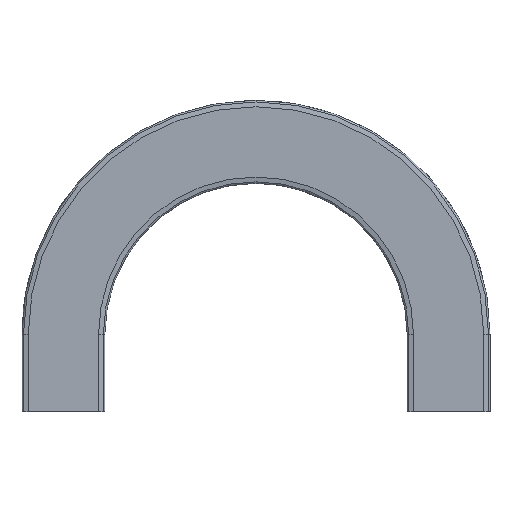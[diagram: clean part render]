
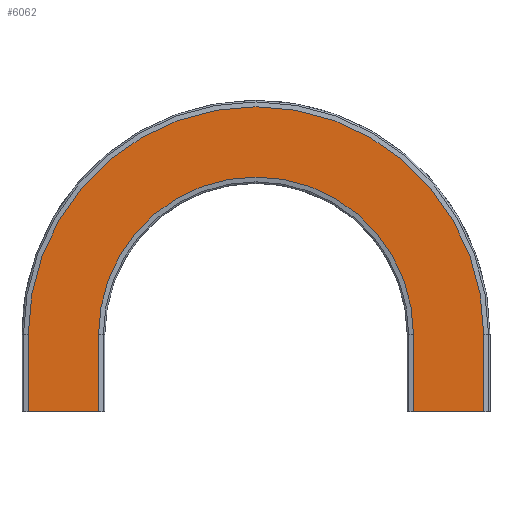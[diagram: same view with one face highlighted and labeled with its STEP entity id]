
A CAD part, front view. The second image highlights one B-rep face of the part: STEP entity #6062.
In plain terms, the highlighted planar face has unit normal (0, -1, 0).
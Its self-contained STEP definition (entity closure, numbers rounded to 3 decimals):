
#5693=CARTESIAN_POINT('',(36.5,-11.,0.0));
#5694=VERTEX_POINT('',#5693);
#5701=CARTESIAN_POINT('',(-36.5,-11.,0.0));
#5702=VERTEX_POINT('',#5701);
#5703=CARTESIAN_POINT('',(-36.5,-11.,0.0));
#5704=DIRECTION('',(1.0,0.0,0.0));
#5705=VECTOR('',#5704,73.);
#5706=LINE('',#5703,#5705);
#5707=EDGE_CURVE('',#5702,#5694,#5706,.T.);
#5773=CARTESIAN_POINT('',(-36.5,-11.,80.0));
#5774=VERTEX_POINT('',#5773);
#5788=CARTESIAN_POINT('',(-36.5,-11.,0.0));
#5789=DIRECTION('',(0.0,0.0,1.0));
#5790=VECTOR('',#5789,80.0);
#5791=LINE('',#5788,#5790);
#5792=EDGE_CURVE('',#5702,#5774,#5791,.T.);
#5802=CARTESIAN_POINT('',(36.5,-11.,80.0));
#5803=VERTEX_POINT('',#5802);
#5812=CARTESIAN_POINT('',(36.5,-11.,0.0));
#5813=DIRECTION('',(0.0,0.0,1.0));
#5814=VECTOR('',#5813,80.0);
#5815=LINE('',#5812,#5814);
#5816=EDGE_CURVE('',#5694,#5803,#5815,.T.);
#5889=CARTESIAN_POINT('',(-436.5,-11.,80.0));
#5890=VERTEX_POINT('',#5889);
#5899=CARTESIAN_POINT('',(-200.0,-11.,80.0));
#5900=DIRECTION('',(0.0,-1.0,0.0));
#5901=DIRECTION('',(1.0,0.0,0.0));
#5902=AXIS2_PLACEMENT_3D('',#5899,#5900,#5901);
#5903=CIRCLE('',#5902,236.5);
#5904=EDGE_CURVE('',#5803,#5890,#5903,.T.);
#5956=CARTESIAN_POINT('',(-363.5,-11.,80.0));
#5957=VERTEX_POINT('',#5956);
#5972=CARTESIAN_POINT('',(-200.0,-11.,80.0));
#5973=DIRECTION('',(0.0,-1.0,0.0));
#5974=DIRECTION('',(1.0,0.0,0.0));
#5975=AXIS2_PLACEMENT_3D('',#5972,#5973,#5974);
#5976=CIRCLE('',#5975,163.5);
#5977=EDGE_CURVE('',#5774,#5957,#5976,.T.);
#6016=CARTESIAN_POINT('',(-363.5,-11.,0.));
#6017=VERTEX_POINT('',#6016);
#6026=CARTESIAN_POINT('',(-363.5,-11.,80.0));
#6027=DIRECTION('',(0.0,0.0,-1.0));
#6028=VECTOR('',#6027,80.);
#6029=LINE('',#6026,#6028);
#6030=EDGE_CURVE('',#5957,#6017,#6029,.T.);
#6035=CARTESIAN_POINT('',(-436.5,-11.,788.319));
#6036=DIRECTION('',(0.0,-1.0,0.0));
#6037=DIRECTION('',(0.0,0.0,1.0));
#6038=AXIS2_PLACEMENT_3D('',#6035,#6036,#6037);
#6039=PLANE('',#6038);
#6040=CARTESIAN_POINT('',(-436.5,-11.,0.));
#6041=VERTEX_POINT('',#6040);
#6042=CARTESIAN_POINT('',(-436.5,-11.,0.));
#6043=DIRECTION('',(1.0,0.0,0.0));
#6044=VECTOR('',#6043,73.);
#6045=LINE('',#6042,#6044);
#6046=EDGE_CURVE('',#6041,#6017,#6045,.T.);
#6047=ORIENTED_EDGE('',*,*,#6046,.T.);
#6048=ORIENTED_EDGE('',*,*,#6030,.F.);
#6049=ORIENTED_EDGE('',*,*,#5977,.F.);
#6050=ORIENTED_EDGE('',*,*,#5792,.F.);
#6051=ORIENTED_EDGE('',*,*,#5707,.T.);
#6052=ORIENTED_EDGE('',*,*,#5816,.T.);
#6053=ORIENTED_EDGE('',*,*,#5904,.T.);
#6054=CARTESIAN_POINT('',(-436.5,-11.,80.0));
#6055=DIRECTION('',(0.0,0.0,-1.0));
#6056=VECTOR('',#6055,80.);
#6057=LINE('',#6054,#6056);
#6058=EDGE_CURVE('',#5890,#6041,#6057,.T.);
#6059=ORIENTED_EDGE('',*,*,#6058,.T.);
#6060=EDGE_LOOP('',(#6047,#6048,#6049,#6050,#6051,#6052,#6053,#6059));
#6061=FACE_OUTER_BOUND('',#6060,.T.);
#6062=ADVANCED_FACE('',(#6061),#6039,.T.);
